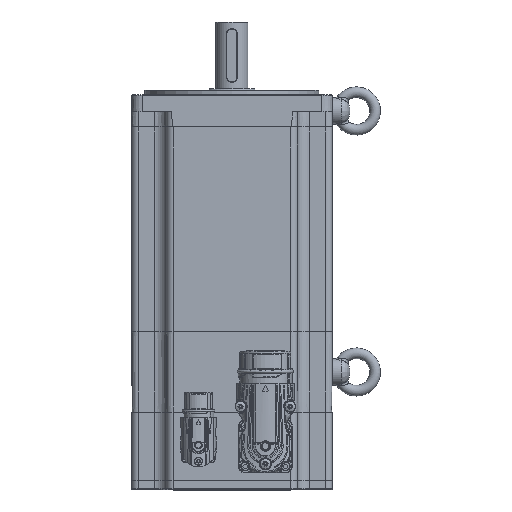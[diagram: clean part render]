
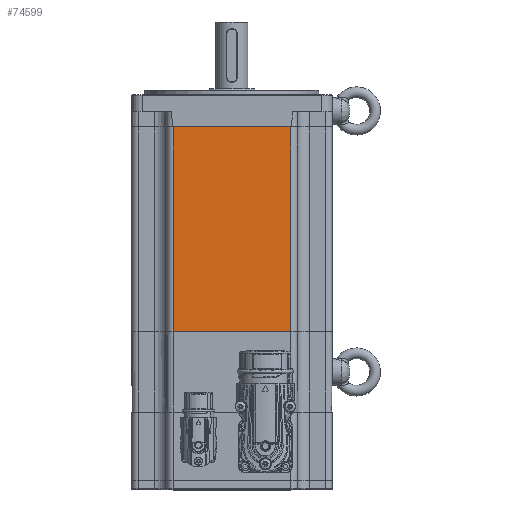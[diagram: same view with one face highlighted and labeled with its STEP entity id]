
A CAD part, top view. The second image highlights one B-rep face of the part: STEP entity #74599.
In plain terms, the highlighted planar face has unit normal (0, 0, 1).
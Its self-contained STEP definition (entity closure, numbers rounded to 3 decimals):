
#4539=LINE('',#157112,#7217);
#4542=LINE('',#157137,#7220);
#4560=LINE('',#157215,#7238);
#4561=LINE('',#157216,#7239);
#7217=VECTOR('',#91555,1000.);
#7220=VECTOR('',#91578,1000.);
#7238=VECTOR('',#91656,1000.);
#7239=VECTOR('',#91657,1000.);
#8359=PLANE('',#79456);
#25252=ORIENTED_EDGE('',*,*,#32842,.F.);
#25253=ORIENTED_EDGE('',*,*,#32891,.T.);
#25254=ORIENTED_EDGE('',*,*,#32854,.T.);
#25255=ORIENTED_EDGE('',*,*,#32892,.T.);
#32842=EDGE_CURVE('',#37765,#37766,#4539,.T.);
#32854=EDGE_CURVE('',#37778,#37776,#4542,.T.);
#32891=EDGE_CURVE('',#37765,#37778,#4560,.T.);
#32892=EDGE_CURVE('',#37776,#37766,#4561,.F.);
#37765=VERTEX_POINT('',#157111);
#37766=VERTEX_POINT('',#157113);
#37776=VERTEX_POINT('',#157135);
#37778=VERTEX_POINT('',#157138);
#44159=EDGE_LOOP('',(#25252,#25253,#25254,#25255));
#48232=FACE_BOUND('',#44159,.T.);
#74599=ADVANCED_FACE('',(#48232),#8359,.T.);
#79456=AXIS2_PLACEMENT_3D('',#157214,#91654,#91655);
#91555=DIRECTION('',(0.,-1.,0.));
#91578=DIRECTION('',(0.,-1.,0.));
#91654=DIRECTION('',(0.,0.,1.));
#91655=DIRECTION('',(0.,-1.,0.));
#91656=DIRECTION('',(-1.,0.,0.));
#91657=DIRECTION('',(-1.,0.,0.));
#157111=CARTESIAN_POINT('',(-1.,44.,75.));
#157112=CARTESIAN_POINT('',(-1.,75.,75.));
#157113=CARTESIAN_POINT('',(-1.,-44.,75.));
#157135=CARTESIAN_POINT('',(-154.,-44.,75.));
#157137=CARTESIAN_POINT('',(-154.,75.,75.));
#157138=CARTESIAN_POINT('',(-154.,44.,75.));
#157214=CARTESIAN_POINT('',(-300.,75.,75.));
#157215=CARTESIAN_POINT('',(-300.,44.,75.));
#157216=CARTESIAN_POINT('',(0.,-44.,75.));
